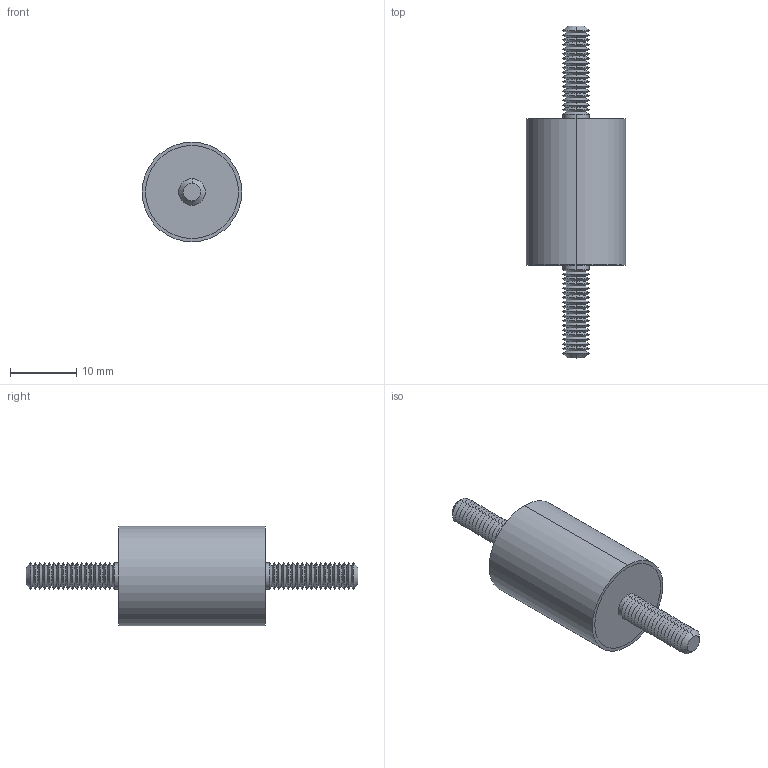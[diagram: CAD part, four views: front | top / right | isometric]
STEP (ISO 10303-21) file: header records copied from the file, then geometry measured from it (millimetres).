
FILE_DESCRIPTION (( 'STEP AP203' ), '1' );
FILE_NAME ('61040.W0155.step', '2019-09-24T22:24:37', ( '' ), ( '' ), 'SwSTEP 2.0', 'SolidWorks 2017', '' );
FILE_SCHEMA (( 'CONFIG_CONTROL_DESIGN' ));
Length unit declared in the file: millimetre
Products named in the file (4): Part2_61040.W0155; Part3_61040.W0155; Part1_61040.W0155; 61040.W0155
Assembly tree (3 placements, depth 2):
  61040.W0155
    Part1_61040.W0155
    Part2_61040.W0155
    Part3_61040.W0155
Bounding box: 15 x 50 x 15 mm (x, y, z)
Volume: 4147.9 mm3; surface area: 2742.8 mm2
Topology: 3 solids, 3 shells, 172 faces, 338 edges, 176 vertices
Faces by surface type: cone 148, cylinder 14, plane 10
Entity records: 4708 total; most frequent: DIRECTION 870, CARTESIAN_POINT 692, ORIENTED_EDGE 676, AXIS2_PLACEMENT_3D 354, EDGE_CURVE 338, EDGE_LOOP 176, VERTEX_POINT 176, CIRCLE 176
